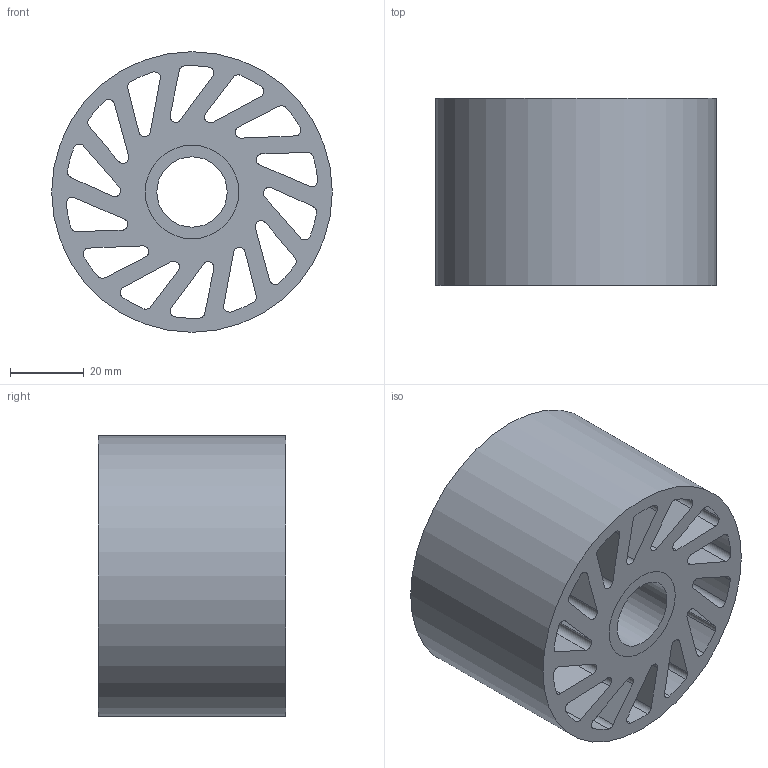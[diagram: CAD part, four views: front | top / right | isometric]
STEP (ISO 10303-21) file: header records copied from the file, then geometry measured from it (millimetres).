
FILE_DESCRIPTION(/* description */ (''),/* implementation_level */ '2;1');
FILE_NAME(/* name */ 'C:\Users\Owner\Desktop\Meridian Stuff\Oilite\NCWOB-730-XXX.stp',/* time_stamp */ '2023-05-22T16:48:11-05:00',/* author */ ('ASG'),/* organization */ ('Meridian Laboratory '),/* preprocessor_version */ 'ST-DEVELOPER v19',/* originating_system */ 'Autodesk Inventor 2023',/* authorisation */ '');
FILE_SCHEMA (('AUTOMOTIVE_DESIGN { 1 0 10303 214 3 1 1 }'));
Length unit declared in the file: inch
Products named in the file (1): NCWOB-640-XXX
Bounding box: 76.2 x 50.8 x 76.2 mm (x, y, z)
Volume: 146439.1 mm3; surface area: 59833.2 mm2
Topology: 2 solids, 2 shells, 92 faces, 264 edges, 176 vertices
Faces by surface type: cylinder 60, plane 32
Full cylindrical faces by diameter (mm): 19.101 x1, 25.4 x2, 76.2 x1
Entity records: 3285 total; most frequent: DIRECTION 570, CARTESIAN_POINT 533, ORIENTED_EDGE 528, EDGE_CURVE 264, AXIS2_PLACEMENT_3D 213, VERTEX_POINT 176, LINE 144, VECTOR 144
